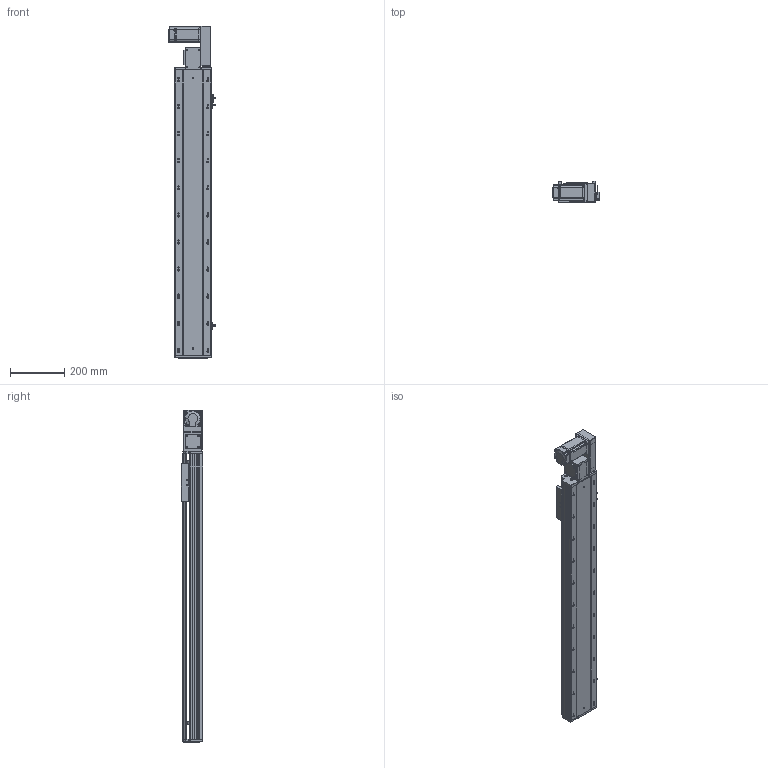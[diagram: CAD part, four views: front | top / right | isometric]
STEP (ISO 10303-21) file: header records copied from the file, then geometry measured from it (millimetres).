
FILE_DESCRIPTION (( 'STEP AP203' ), '1' );
FILE_NAME ('RY140-T-300-RK.SLDASM_800.step', '2021-03-01T06:45:31', ( '盈信电脑' ), ( '东莞市道滘镇水果街19号' ), 'SwSTEP 2.0', 'SolidWorks 2012', '' );
FILE_SCHEMA (( 'CONFIG_CONTROL_DESIGN' ));
Products named in the file (17): 15; RY140-T-300-RK.SLDASM_800; RY120-T主同步轮轴承压盖; RY120-T蹟翐M4; RY140-T萇儂假蚾啣; RY140-T萇儂欶; RY140-T翋肮祭謫盓傅釱; RY120-T肮祭湍揤踡輸1; 滅袉蝶18-10; RY140-T翋肮謫裔啣; RY120-T肮祭湍揤踡輸2; RY140綴裔啣; RY120外置感应片(140共用）; 覜茼ん672; RY140-T-300-DR倰第奻裔啣_800; RY140-T-300-DR倰第菁釱_800; RY140肮祭謫臏賑輸
Assembly tree (22 placements, depth 2):
  RY140-T-300-RK.SLDASM_800
    RY140-T-300-DR倰第菁釱_800
    RY140肮祭謫臏賑輸
    RY140-T-300-DR倰第奻裔啣_800
    RY140綴裔啣
    覜茼ん672  x3
    RY120外置感应片(140共用）
    RY120-T肮祭湍揤踡輸2
    RY120-T肮祭湍揤踡輸1
    RY140-T翋肮祭謫盓傅釱
    滅袉蝶18-10  x2
    RY140-T翋肮謫裔啣
    RY140-T萇儂欶
    RY140-T萇儂假蚾啣
    RY120-T蹟翐M4  x4
    15
    RY120-T主同步轮轴承压盖
Bounding box: 170.7 x 78 x 1226.5 mm (x, y, z)
Volume: 3511571.7 mm3; surface area: 1329924.8 mm2
Topology: 22 solids, 22 shells, 2707 faces, 7469 edges, 4806 vertices
Faces by surface type: plane 1385, cylinder 1016, cone 206, bspline 100
Entity records: 86330 total; most frequent: CARTESIAN_POINT 21289, ORIENTED_EDGE 13450, DIRECTION 12681, EDGE_CURVE 6725, VERTEX_POINT 4405, LINE 4253, VECTOR 4253, AXIS2_PLACEMENT_3D 4214
